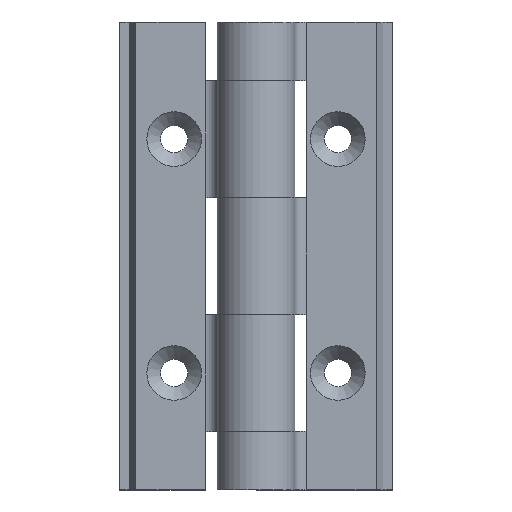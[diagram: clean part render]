
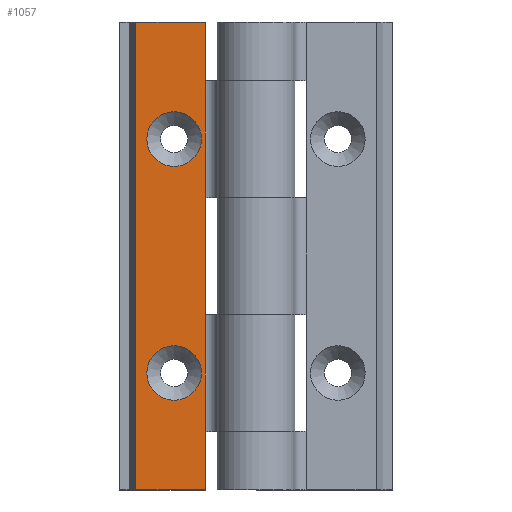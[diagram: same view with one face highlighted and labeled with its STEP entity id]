
A CAD part, top view. The second image highlights one B-rep face of the part: STEP entity #1057.
In plain terms, the highlighted planar face has unit normal (0, 0, 1) as drawn and (0, -1, 0) by its records, which use the part's own axes.
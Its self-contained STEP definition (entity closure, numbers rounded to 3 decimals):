
#65=LINE('',#1665,#152);
#66=LINE('',#1668,#153);
#67=LINE('',#1670,#154);
#68=LINE('',#1672,#155);
#69=LINE('',#1674,#156);
#70=LINE('',#1676,#157);
#71=LINE('',#1678,#158);
#72=LINE('',#1680,#159);
#73=LINE('',#1682,#160);
#74=LINE('',#1684,#161);
#75=LINE('',#1686,#162);
#76=LINE('',#1688,#163);
#152=VECTOR('',#1323,1000.);
#153=VECTOR('',#1324,1000.);
#154=VECTOR('',#1325,1000.);
#155=VECTOR('',#1326,1000.);
#156=VECTOR('',#1327,1000.);
#157=VECTOR('',#1328,1000.);
#158=VECTOR('',#1329,1000.);
#159=VECTOR('',#1330,1000.);
#160=VECTOR('',#1331,1000.);
#161=VECTOR('',#1332,1000.);
#162=VECTOR('',#1333,1000.);
#163=VECTOR('',#1334,1000.);
#285=ORIENTED_EDGE('',*,*,#563,.T.);
#286=ORIENTED_EDGE('',*,*,#564,.T.);
#287=ORIENTED_EDGE('',*,*,#565,.T.);
#288=ORIENTED_EDGE('',*,*,#566,.T.);
#289=ORIENTED_EDGE('',*,*,#567,.T.);
#290=ORIENTED_EDGE('',*,*,#568,.T.);
#291=ORIENTED_EDGE('',*,*,#569,.T.);
#292=ORIENTED_EDGE('',*,*,#570,.T.);
#293=ORIENTED_EDGE('',*,*,#571,.T.);
#294=ORIENTED_EDGE('',*,*,#572,.T.);
#295=ORIENTED_EDGE('',*,*,#573,.F.);
#296=ORIENTED_EDGE('',*,*,#574,.F.);
#297=ORIENTED_EDGE('',*,*,#575,.T.);
#298=ORIENTED_EDGE('',*,*,#576,.T.);
#563=EDGE_CURVE('',#704,#704,#792,.F.);
#564=EDGE_CURVE('',#705,#705,#793,.F.);
#565=EDGE_CURVE('',#706,#707,#65,.F.);
#566=EDGE_CURVE('',#707,#708,#66,.T.);
#567=EDGE_CURVE('',#708,#709,#67,.T.);
#568=EDGE_CURVE('',#709,#710,#68,.T.);
#569=EDGE_CURVE('',#710,#711,#69,.F.);
#570=EDGE_CURVE('',#711,#712,#70,.T.);
#571=EDGE_CURVE('',#712,#713,#71,.T.);
#572=EDGE_CURVE('',#713,#714,#72,.T.);
#573=EDGE_CURVE('',#715,#714,#73,.T.);
#574=EDGE_CURVE('',#716,#715,#74,.T.);
#575=EDGE_CURVE('',#716,#717,#75,.T.);
#576=EDGE_CURVE('',#717,#706,#76,.T.);
#704=VERTEX_POINT('',#1662);
#705=VERTEX_POINT('',#1664);
#706=VERTEX_POINT('',#1666);
#707=VERTEX_POINT('',#1667);
#708=VERTEX_POINT('',#1669);
#709=VERTEX_POINT('',#1671);
#710=VERTEX_POINT('',#1673);
#711=VERTEX_POINT('',#1675);
#712=VERTEX_POINT('',#1677);
#713=VERTEX_POINT('',#1679);
#714=VERTEX_POINT('',#1681);
#715=VERTEX_POINT('',#1683);
#716=VERTEX_POINT('',#1685);
#717=VERTEX_POINT('',#1687);
#792=CIRCLE('',#1165,3.5);
#793=CIRCLE('',#1166,3.5);
#849=EDGE_LOOP('',(#285));
#850=EDGE_LOOP('',(#286));
#851=EDGE_LOOP('',(#287,#288,#289,#290,#291,#292,#293,#294,#295,#296,#297,
#298));
#940=FACE_BOUND('',#849,.T.);
#941=FACE_BOUND('',#850,.T.);
#942=FACE_BOUND('',#851,.T.);
#1023=PLANE('',#1164);
#1057=ADVANCED_FACE('',(#940,#941,#942),#1023,.T.);
#1164=AXIS2_PLACEMENT_3D('',#1660,#1317,#1318);
#1165=AXIS2_PLACEMENT_3D('',#1661,#1319,#1320);
#1166=AXIS2_PLACEMENT_3D('',#1663,#1321,#1322);
#1317=DIRECTION('',(0.,-1.,0.));
#1318=DIRECTION('',(1.,0.,0.));
#1319=DIRECTION('',(0.,-1.,0.));
#1320=DIRECTION('',(0.,0.,-1.));
#1321=DIRECTION('',(0.,-1.,0.));
#1322=DIRECTION('',(0.,0.,-1.));
#1323=DIRECTION('',(0.,0.,-1.));
#1324=DIRECTION('',(-1.,0.,0.));
#1325=DIRECTION('',(0.,0.,1.));
#1326=DIRECTION('',(1.,0.,0.));
#1327=DIRECTION('',(0.,0.,-1.));
#1328=DIRECTION('',(-1.,0.,0.));
#1329=DIRECTION('',(0.,0.,1.));
#1330=DIRECTION('',(-1.,0.,0.));
#1331=DIRECTION('',(0.,0.,1.));
#1332=DIRECTION('',(-1.,0.,0.));
#1333=DIRECTION('',(0.,0.,1.));
#1334=DIRECTION('',(1.,0.,0.));
#1660=CARTESIAN_POINT('',(-0.231,1.7,-15.));
#1661=CARTESIAN_POINT('',(-4.25,1.7,15.));
#1662=CARTESIAN_POINT('',(-4.25,1.7,11.5));
#1663=CARTESIAN_POINT('',(-4.25,1.7,-15.));
#1664=CARTESIAN_POINT('',(-4.25,1.7,-18.5));
#1665=CARTESIAN_POINT('',(-0.247,1.7,-15.));
#1666=CARTESIAN_POINT('',(-0.247,1.7,-22.5));
#1667=CARTESIAN_POINT('',(-0.247,1.7,-7.5));
#1668=CARTESIAN_POINT('',(-0.231,1.7,-7.5));
#1669=CARTESIAN_POINT('',(-0.25,1.7,-7.5));
#1670=CARTESIAN_POINT('',(-0.25,1.7,-15.));
#1671=CARTESIAN_POINT('',(-0.25,1.7,7.5));
#1672=CARTESIAN_POINT('',(-0.231,1.7,7.5));
#1673=CARTESIAN_POINT('',(-0.247,1.7,7.5));
#1674=CARTESIAN_POINT('',(-0.247,1.7,-15.));
#1675=CARTESIAN_POINT('',(-0.247,1.7,22.5));
#1676=CARTESIAN_POINT('',(-0.231,1.7,22.5));
#1677=CARTESIAN_POINT('',(-0.25,1.7,22.5));
#1678=CARTESIAN_POINT('',(-0.25,1.7,6.));
#1679=CARTESIAN_POINT('',(-0.25,1.7,30.));
#1680=CARTESIAN_POINT('',(-0.25,1.7,30.));
#1681=CARTESIAN_POINT('',(-9.158,1.7,30.));
#1682=CARTESIAN_POINT('',(-9.158,1.7,-15.));
#1683=CARTESIAN_POINT('',(-9.158,1.7,-30.));
#1684=CARTESIAN_POINT('',(-0.25,1.7,-30.));
#1685=CARTESIAN_POINT('',(-0.25,1.7,-30.));
#1686=CARTESIAN_POINT('',(-0.25,1.7,-15.));
#1687=CARTESIAN_POINT('',(-0.25,1.7,-22.5));
#1688=CARTESIAN_POINT('',(-0.25,1.7,-22.5));
